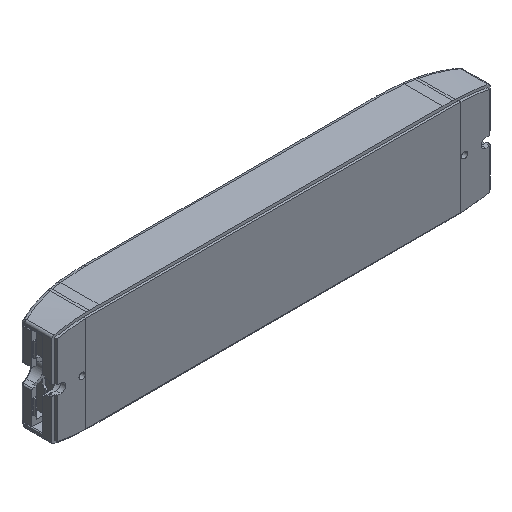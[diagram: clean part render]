
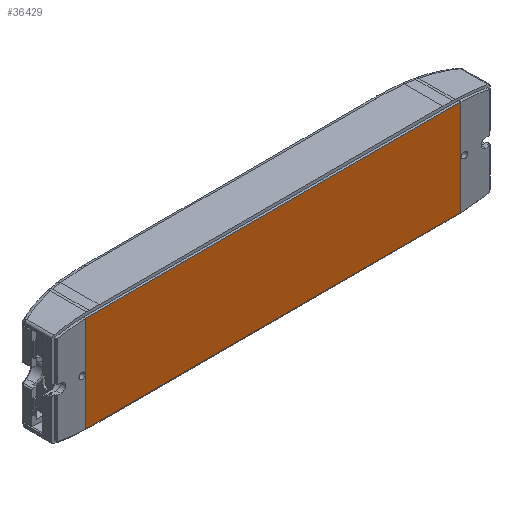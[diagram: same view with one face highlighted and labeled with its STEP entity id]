
A CAD part, isometric view. The second image highlights one B-rep face of the part: STEP entity #36429.
In plain terms, the highlighted planar face has unit normal (0, -1, 0).
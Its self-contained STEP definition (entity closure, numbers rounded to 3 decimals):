
#34371=DIRECTION('',(0.,0.,1.));
#34372=VECTOR('',#34371,39.6);
#34373=CARTESIAN_POINT('',(77.475,0.,-17.5));
#34374=LINE('',#34373,#34372);
#34435=DIRECTION('',(-1.,0.,0.));
#34436=VECTOR('',#34435,154.95);
#34437=CARTESIAN_POINT('',(77.475,0.,-17.5));
#34438=LINE('',#34437,#34436);
#34439=DIRECTION('',(1.,0.,0.));
#34440=VECTOR('',#34439,154.95);
#34441=CARTESIAN_POINT('',(-77.475,0.,22.1));
#34442=LINE('',#34441,#34440);
#34447=DIRECTION('',(0.,0.,-1.));
#34448=VECTOR('',#34447,39.6);
#34449=CARTESIAN_POINT('',(-77.475,0.,22.1));
#34450=LINE('',#34449,#34448);
#34605=CARTESIAN_POINT('',(77.475,0.,-17.5));
#34606=VERTEX_POINT('',#34605);
#34607=CARTESIAN_POINT('',(77.475,0.,22.1));
#34608=VERTEX_POINT('',#34607);
#34693=CARTESIAN_POINT('',(-77.475,0.,22.1));
#34694=VERTEX_POINT('',#34693);
#34695=CARTESIAN_POINT('',(-77.475,0.,-17.5));
#34696=VERTEX_POINT('',#34695);
#36417=CARTESIAN_POINT('',(-72.275,0.,-17.5));
#36418=DIRECTION('',(0.,-1.,0.));
#36419=DIRECTION('',(1.,0.,0.));
#36420=AXIS2_PLACEMENT_3D('',#36417,#36418,#36419);
#36421=PLANE('',#36420);
#36422=ORIENTED_EDGE('',*,*,#34960,.T.);
#36424=ORIENTED_EDGE('',*,*,#36423,.F.);
#36425=ORIENTED_EDGE('',*,*,#36395,.T.);
#36426=ORIENTED_EDGE('',*,*,#36354,.F.);
#36427=EDGE_LOOP('',(#36422,#36424,#36425,#36426));
#36428=FACE_OUTER_BOUND('',#36427,.F.);
#34960=EDGE_CURVE('',#34606,#34696,#34438,.T.);
#36354=EDGE_CURVE('',#34606,#34608,#34374,.T.);
#36395=EDGE_CURVE('',#34694,#34608,#34442,.T.);
#36423=EDGE_CURVE('',#34694,#34696,#34450,.T.);
#36429=ADVANCED_FACE('',(#36428),#36421,.T.);
